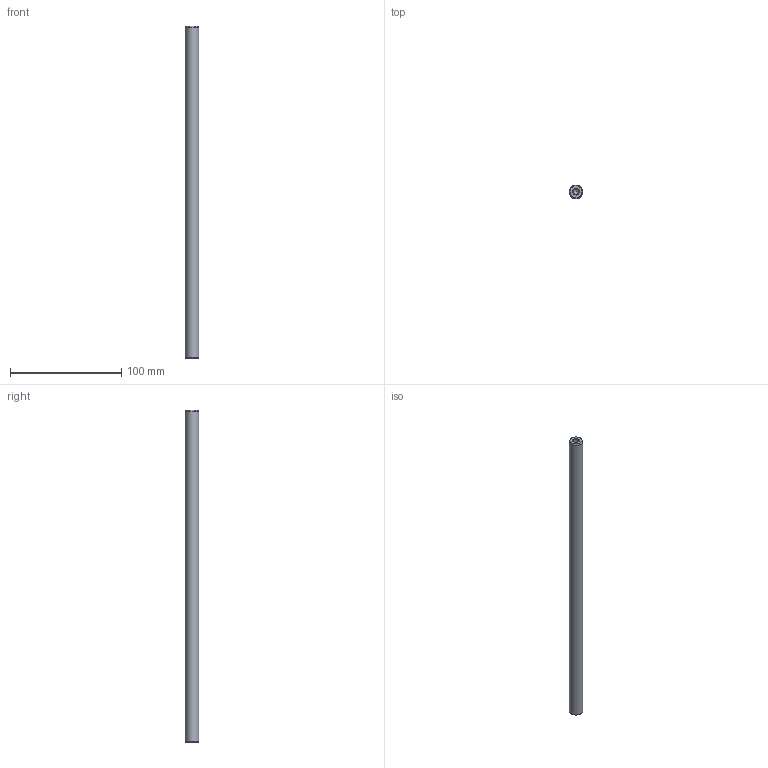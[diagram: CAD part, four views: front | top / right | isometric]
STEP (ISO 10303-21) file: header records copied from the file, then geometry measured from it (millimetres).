
FILE_DESCRIPTION( ( 'STEP AP214' ), '1' );
FILE_NAME( 'U:/Etudes/Top Solid/BIBLIO_Fournisseur/Colonnes UG/Ø12x299.step', '2004-12-22T12:34:33', ( ' ' ), ( ' ' ), 'XStep 1.0', ' ', ' ' );
FILE_SCHEMA( ( 'automotive_design' ) );
Length unit declared in the file: metre
Products named in the file (1): 1
Bounding box: 12 x 12 x 299 mm (x, y, z)
Volume: 33303.9 mm3; surface area: 11879.1 mm2
Topology: 1 solids, 1 shells, 13 faces, 27 edges, 16 vertices
Faces by surface type: cone 6, cylinder 5, plane 2
Full cylindrical faces by diameter (mm): 4.134 x2, 4.918 x2, 12 x1
Entity records: 382 total; most frequent: DIRECTION 52, CARTESIAN_POINT 40, AXIS2_PLACEMENT_3D 26, EDGE_LOOP 24, ORIENTED_EDGE 24, FACE_OUTER_BOUND 18, VERTEX_POINT 14, STYLED_ITEM 13
